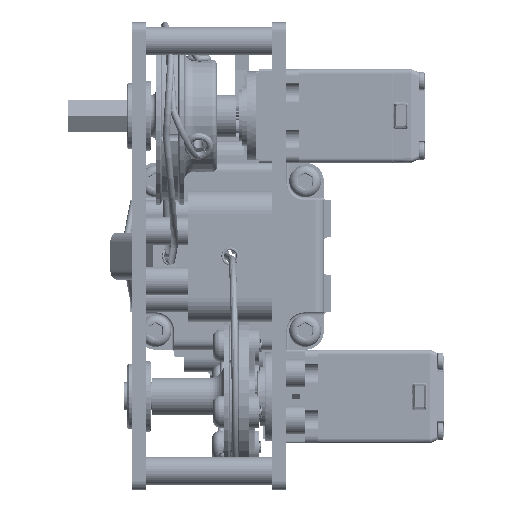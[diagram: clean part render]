
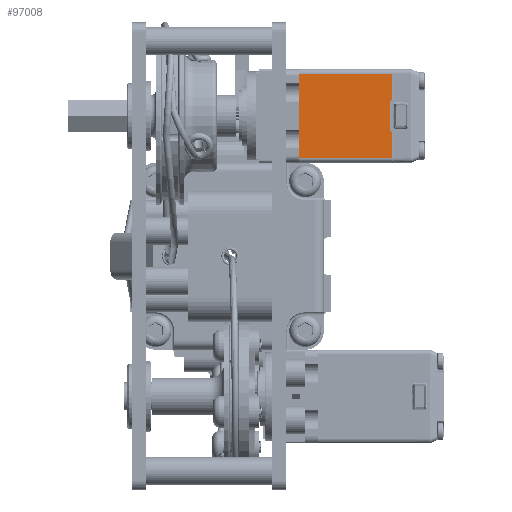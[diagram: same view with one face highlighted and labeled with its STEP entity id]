
A CAD part, front view. The second image highlights one B-rep face of the part: STEP entity #97008.
In plain terms, the highlighted planar face has unit normal (0, -1, 0) as drawn and (-1, 0, 0) by its records, which use the part's own axes.
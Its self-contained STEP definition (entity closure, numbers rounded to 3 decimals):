
#96530=CARTESIAN_POINT('',(-19.85,-9.,-31.18));
#96531=VERTEX_POINT('',#96530);
#96554=CARTESIAN_POINT('',(-19.85,-3.498,-31.18));
#96555=VERTEX_POINT('',#96554);
#96563=CARTESIAN_POINT('',(-19.85,-3.,-30.72));
#96564=VERTEX_POINT('',#96563);
#96565=CARTESIAN_POINT('',(-19.85,-3.,-31.22));
#96566=DIRECTION('',(0.,-0.997,0.08));
#96567=DIRECTION('',(-1.,0.,0.));
#96568=AXIS2_PLACEMENT_3D('',#96565,#96567,#96566);
#96569=CIRCLE('',#96568,0.5);
#96570=EDGE_CURVE('',#96555,#96564,#96569,.T.);
#96675=CARTESIAN_POINT('',(-19.85,3.498,-31.18));
#96676=VERTEX_POINT('',#96675);
#96699=CARTESIAN_POINT('',(-19.85,-9.,-31.18));
#96700=DIRECTION('',(0.,1.,0.));
#96701=VECTOR('',#96700,5.502);
#96702=LINE('',#96699,#96701);
#96703=EDGE_CURVE('',#96531,#96555,#96702,.T.);
#96706=CARTESIAN_POINT('',(-19.85,9.,-31.18));
#96707=VERTEX_POINT('',#96706);
#96708=CARTESIAN_POINT('',(-19.85,3.498,-31.18));
#96709=DIRECTION('',(0.,1.,0.));
#96710=VECTOR('',#96709,5.502);
#96711=LINE('',#96708,#96710);
#96712=EDGE_CURVE('',#96676,#96707,#96711,.T.);
#96729=CARTESIAN_POINT('',(-19.85,3.,-30.72));
#96730=VERTEX_POINT('',#96729);
#96731=CARTESIAN_POINT('',(-19.85,3.,-31.22));
#96732=DIRECTION('',(0.,0.,1.));
#96733=DIRECTION('',(-1.,0.,0.));
#96734=AXIS2_PLACEMENT_3D('',#96731,#96733,#96732);
#96735=CIRCLE('',#96734,0.5);
#96736=EDGE_CURVE('',#96730,#96676,#96735,.T.);
#96949=CARTESIAN_POINT('',(-19.85,-9.,-11.22));
#96950=VERTEX_POINT('',#96949);
#96951=CARTESIAN_POINT('',(-19.85,-9.,-11.22));
#96952=DIRECTION('',(0.,0.,-1.));
#96953=VECTOR('',#96952,19.96);
#96954=LINE('',#96951,#96953);
#96955=EDGE_CURVE('',#96950,#96531,#96954,.T.);
#96976=CARTESIAN_POINT('',(-19.85,-9.,-11.2));
#96977=DIRECTION('',(0.,1.,0.));
#96978=DIRECTION('',(-1.,0.,0.));
#96979=AXIS2_PLACEMENT_3D('',#96976,#96978,#96977);
#96980=PLANE('',#96979);
#96981=ORIENTED_EDGE('',*,*,#96736,.F.);
#96982=CARTESIAN_POINT('',(-19.85,3.,-30.72));
#96983=DIRECTION('',(0.,-1.,0.));
#96984=VECTOR('',#96983,6.);
#96985=LINE('',#96982,#96984);
#96986=EDGE_CURVE('',#96730,#96564,#96985,.T.);
#96987=ORIENTED_EDGE('E694',*,*,#96986,.T.);
#96988=ORIENTED_EDGE('E694',*,*,#96570,.F.);
#96989=ORIENTED_EDGE('E694',*,*,#96703,.F.);
#96990=ORIENTED_EDGE('E694',*,*,#96955,.F.);
#96991=CARTESIAN_POINT('',(-19.85,9.,-11.22));
#96992=VERTEX_POINT('',#96991);
#96993=CARTESIAN_POINT('',(-19.85,-9.,-11.22));
#96994=DIRECTION('',(0.,1.,0.));
#96995=VECTOR('',#96994,18.);
#96996=LINE('',#96993,#96995);
#96997=EDGE_CURVE('',#96950,#96992,#96996,.T.);
#96998=ORIENTED_EDGE('E695',*,*,#96997,.T.);
#96999=CARTESIAN_POINT('',(-19.85,9.,-11.22));
#97000=DIRECTION('',(0.,0.,-1.));
#97001=VECTOR('',#97000,19.96);
#97002=LINE('',#96999,#97001);
#97003=EDGE_CURVE('',#96992,#96707,#97002,.T.);
#97004=ORIENTED_EDGE('E696',*,*,#97003,.T.);
#97005=ORIENTED_EDGE('E696',*,*,#96712,.F.);
#97006=EDGE_LOOP('',(#96981,#96987,#96988,#96989,#96990,#96998,#97004,#97005));
#97007=FACE_OUTER_BOUND('',#97006,.T.);
#97008=ADVANCED_FACE('F236',(#97007),#96980,.T.);
